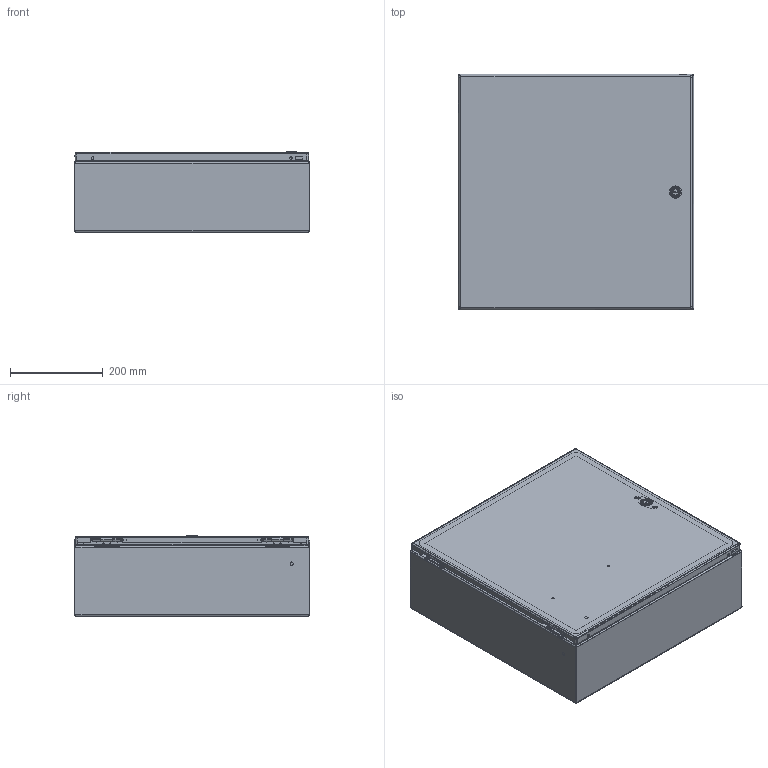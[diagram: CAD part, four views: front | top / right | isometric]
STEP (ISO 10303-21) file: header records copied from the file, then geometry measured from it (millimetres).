
FILE_DESCRIPTION (( 'STEP AP203' ), '1' );
FILE_NAME ('csd20206.STEP', '2012-05-09T16:26:34', ( 'User' ), ( 'Pentair Inc' ), 'SwSTEP 2.0', 'SolidWorks 2010', '' );
FILE_SCHEMA (( 'CONFIG_CONTROL_DESIGN' ));
Length unit declared in the file: inch
Products named in the file (27): csd20206; 87934512; 87934315_default; 23271001_After Weld; 87937925_assy; 87937965_weldment; 87937911; 99401225; 87931362_87931362; 89056623; 64101001; 64201001; 87541994_Installed Height; 87541995; 64202001; 64210001; 64203001; 87927840_87927840; 87932903; 64138001; 89057562; 87543027; 87929507; 87929767; 87929769_Installed on Pin; 89076399; 89076193
Assembly tree (38 placements, depth 4):
  csd20206
    87543027  x2
    87929507  x2
      87929769_Installed on Pin
      87929767
    89076399  x2
      89076193
      89056623
    87937925_assy
      64138001  x2
      87937965_weldment
        99401225
        87931362_87931362  x4
        87937911
      89057562
      87932903  x2
      64101001
        64201001
        87927840_87927840
        64202001
        64210001
        64203001
        87541995
        87541994_Installed Height
    87934512
      23271001_After Weld  x4
      87934315_default
      99401225
Bounding box: 508 x 508.73 x 173.1 mm (x, y, z)
Volume: 1291630.1 mm3; surface area: 1934973.4 mm2
Topology: 35 solids, 35 shells, 1689 faces, 4125 edges, 2490 vertices
Faces by surface type: plane 652, cylinder 547, bspline 288, torus 106, cone 88, sphere 8
Entity records: 46223 total; most frequent: CARTESIAN_POINT 16302, ORIENTED_EDGE 5874, DIRECTION 5117, EDGE_CURVE 2937, AXIS2_PLACEMENT_3D 1833, VERTEX_POINT 1802, LINE 1451, VECTOR 1451
